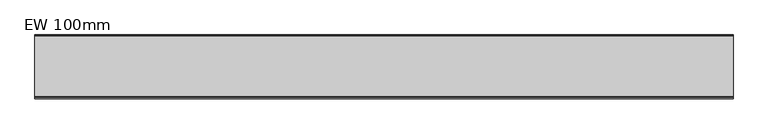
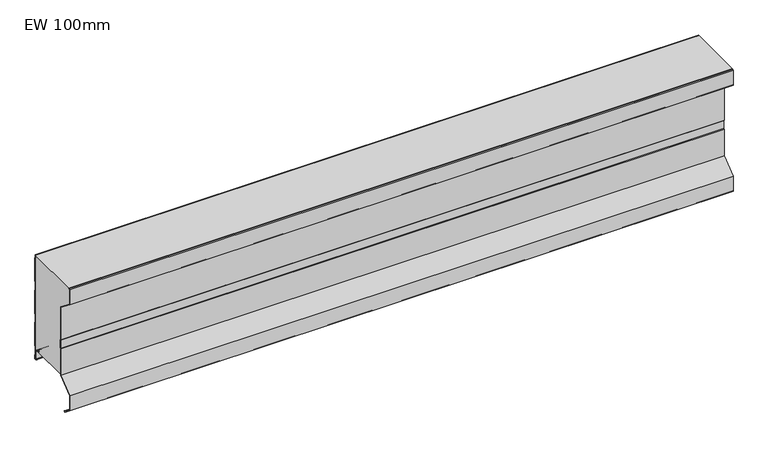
"""IFC4 building model written with IfcOpenShell, lengths in millimetres: plate geometry, KIP-MEX-KC-R19-CP-EW-SL : EW 100mm."""

from ifc_helpers import new_model, si_unit, point, frame, frame_2d, origin, place, context, project, spatial, polyline, circle_curve, trimmed, segment, composite_curve, outline, extrude, source, transform, mapped, element, save


def ew_100mm_a70b9e7b(model_context):
    return source(origin(), model_context, "Body", "SweptSolid", [
        extrude(outline(composite_curve([segment(polyline([(-2.2002307, 217.6192114), (-2.2002307, 224.3718713), (-1.2002307, 224.3718713), (-1.2002307, 217.9920919), (-0.3417885, 217.0010442)]), True, "CONTINUOUS"), segment(trimmed(circle_curve(frame_2d((-1.3999972, 216.0844273)), 1.3999972), [point((-0.3417885, 217.0010442))], [point((0.0, 216.0844273))], False, "CARTESIAN"), True, "CONTINUOUS"), segment(polyline([(0.0, 216.0844273), (0.0, 162.3293142)]), True, "CONTINUOUS"), segment(trimmed(circle_curve(frame_2d((-1.3999972, 162.3293142)), 1.3999972), [point((0.0, 162.3293142))], [point((-0.3417885, 161.4126973))], False, "CARTESIAN"), True, "CONTINUOUS"), segment(polyline([(-0.3417885, 161.4126973), (-1.2002307, 160.4216497), (-1.2002307, 141.7922443), (-0.3417885, 140.8011966)]), True, "CONTINUOUS"), segment(trimmed(circle_curve(frame_2d((-1.3999972, 139.8845797)), 1.3999972), [point((-0.3417885, 140.8011966))], [point((0.0, 139.8845797))], False, "CARTESIAN"), True, "CONTINUOUS"), segment(polyline([(0.0, 139.8845797), (0.0, 86.1294666)]), True, "CONTINUOUS"), segment(trimmed(circle_curve(frame_2d((-1.3999972, 86.1294666)), 1.3999972), [point((0.0, 86.1294666))], [point((-0.3417885, 85.2128497))], False, "CARTESIAN"), True, "CONTINUOUS"), segment(polyline([(-0.3417885, 85.2128497), (-1.2002307, 84.2218021), (-1.2002307, 65.5923967), (-0.3417885, 64.601349)]), True, "CONTINUOUS"), segment(trimmed(circle_curve(frame_2d((-1.3999972, 63.6847321)), 1.3999972), [point((-0.3417885, 64.601349))], [point((0.0, 63.6847321))], False, "CARTESIAN"), True, "CONTINUOUS"), segment(polyline([(0.0, 63.6847321), (0.0, 9.929619)]), True, "CONTINUOUS"), segment(trimmed(circle_curve(frame_2d((-1.3999972, 9.929619)), 1.3999972), [point((0.0, 9.929619))], [point((-0.3417885, 9.0130021))], False, "CARTESIAN"), True, "CONTINUOUS"), segment(polyline([(-0.3417885, 9.0130021), (-1.2002307, 8.0219545), (-1.2002307, -10.6074509), (-0.3417885, -11.5984986)]), True, "CONTINUOUS"), segment(trimmed(circle_curve(frame_2d((-1.3999972, -12.5151155)), 1.3999972), [point((-0.3417885, -11.5984986))], [point((0.0, -12.5151155))], False, "CARTESIAN"), True, "CONTINUOUS"), segment(polyline([(0.0, -12.5151155), (0.0, -20.3675812)]), True, "CONTINUOUS"), segment(trimmed(circle_curve(frame_2d((-1.4999795, -20.3675812)), 1.4999795), [point((0.0, -20.3675812))], [point((-1.4999795, -21.8675607))], False, "CARTESIAN"), True, "CONTINUOUS"), segment(polyline([(-1.4999795, -21.8675607), (-2.4999032, -21.8675607)]), True, "CONTINUOUS"), segment(trimmed(circle_curve(frame_2d((-2.4999032, -18.3676454)), 3.4999153), [point((-2.4999032, -21.8675607))], [point((-5.9998185, -18.3676454))], False, "CARTESIAN"), True, "CONTINUOUS"), segment(polyline([(-5.9998185, -18.3676454), (-5.9998185, -0.3670479)]), True, "CONTINUOUS"), segment(trimmed(circle_curve(frame_2d((-8.0001747, -0.3670479)), 2.0003562), [point((-5.9998185, -0.3670479))], [point((-7.9986755, 1.6333077))], True, "CARTESIAN"), True, "CONTINUOUS"), segment(polyline([(-7.9986755, 1.6333077), (-11.5958583, 1.6333077)]), True, "CONTINUOUS"), segment(trimmed(circle_curve(frame_2d((-11.5943838, 4.1340836)), 2.5007763), [point((-11.5958583, 1.6333077))], [point((-14.0574976, 3.7017037))], False, "CARTESIAN"), True, "CONTINUOUS"), segment(polyline([(-14.0574976, 3.7017037), (-14.6793261, 7.2440392), (-13.694386, 7.4169375), (-13.0725576, 3.8746027)]), True, "CONTINUOUS"), segment(trimmed(circle_curve(frame_2d((-11.5943841, 4.1340842)), 1.5007756), [point((-13.0725576, 3.8746027))], [point((-11.5943841, 2.6333086))], True, "CARTESIAN"), True, "CONTINUOUS"), segment(polyline([(-11.5943841, 2.6333086), (-7.9980709, 2.6333089)]), True, "CONTINUOUS"), segment(trimmed(circle_curve(frame_2d((-8.0001719, -0.3670493)), 3.0003589), [point((-7.9980709, 2.6333089))], [point((-4.999813, -0.3670493))], False, "CARTESIAN"), True, "CONTINUOUS"), segment(polyline([(-4.999813, -0.3670493), (-4.999813, -18.3676343)]), True, "CONTINUOUS"), segment(trimmed(circle_curve(frame_2d((-2.4999087, -18.3676343)), 2.4999043), [point((-4.999813, -18.3676343))], [point((-2.4999087, -20.8675386))], True, "CARTESIAN"), True, "CONTINUOUS"), segment(polyline([(-2.4999087, -20.8675386), (-0.9999889, -20.8675386), (-0.9999889, -12.3659771), (-2.2002307, -10.9803314), (-2.2002307, 8.3948349), (-1.0, 9.7804679), (-1.0, 63.8338833), (-2.2002307, 65.2195162), (-2.2002307, 84.5946825), (-1.0, 85.9803155), (-1.0, 140.0337309), (-2.2002307, 141.4193638), (-2.2002307, 160.7945301), (-1.0, 162.1801631), (-1.0, 216.2335785), (-2.2002307, 217.6192114)]), True, "CONTINUOUS")], self_intersect=False)), frame((-740.0, 0.0, 0.0), z_axis=(1.0, 0.0, 0.0), x_axis=(0.0, 1.0, 0.0)), (0.0, 0.0, 1.0), 1480.0),
        extrude(outline(composite_curve([segment(trimmed(circle_curve(frame_2d((-115.7875816, -75.4831487)), 1.5000016), [point((-115.338162, -74.0520558))], [point((-116.714315, -76.6626274))], False, "CARTESIAN"), True, "CONTINUOUS"), segment(polyline([(-116.714315, -76.6626274), (-135.000038, -62.2952701), (-135.000038, -27.2952321), (-100.0, 0.2047977), (-100.0, 62.4737665), (-98.9999989, 63.8880496), (-98.9999989, 82.4599218), (-100.0, 83.8742048), (-100.0, 160.2049713), (-135.000038, 187.7050012), (-135.000038, 222.7050392), (-132.8786153, 224.3718713), (-131.2600249, 224.3718713), (-134.000038, 222.2190039), (-134.000038, 188.1910365), (-99.0, 160.6910066), (-99.0, 84.1920296), (-97.9999989, 82.7777465), (-97.9999989, 63.5702249), (-99.0, 62.1559418), (-99.0, -0.2812376), (-134.000038, -27.7812674), (-134.000038, -61.8092349), (-119.3105941, -73.3509437), (-115.338162, -74.0520558)]), True, "CONTINUOUS")], self_intersect=False)), frame((-740.0, 0.0, 0.0), z_axis=(1.0, 0.0, 0.0), x_axis=(0.0, 1.0, 0.0)), (0.0, 0.0, 1.0), 1480.0),
        extrude(outline(composite_curve([segment(polyline([(-134.000038, 222.2190039), (-131.2600249, 224.3718713), (-2.2002307, 224.3718713), (-2.2002307, 217.6192115), (-1.0, 216.2335785), (-1.0, 162.1801631), (-2.2002307, 160.7945302), (-2.2002307, 141.4193639), (-1.0, 140.0337309), (-1.0, 85.9803155), (-2.2002307, 84.5946826), (-2.2002307, 65.2195163), (-1.0, 63.8338833), (-1.0, 9.7804679), (-2.2002307, 8.394835), (-2.2002307, -10.9803313), (-0.9999916, -12.365974), (-0.9999916, -20.8675386), (-2.4999198, -20.8675386)]), True, "CONTINUOUS"), segment(trimmed(circle_curve(frame_2d((-2.4999198, -18.3676343)), 2.4999043), [point((-2.4999198, -20.8675386))], [point((-4.9998241, -18.3676343))], False, "CARTESIAN"), True, "CONTINUOUS"), segment(polyline([(-4.9998241, -18.3676343), (-4.9998241, -0.3670493)]), True, "CONTINUOUS"), segment(trimmed(circle_curve(frame_2d((-8.0001829, -0.3670493)), 3.0003589), [point((-4.9998241, -0.3670493))], [point((-7.998082, 2.6333088))], True, "CARTESIAN"), True, "CONTINUOUS"), segment(polyline([(-7.998082, 2.6333088), (-11.5943952, 2.6333088)]), True, "CONTINUOUS"), segment(trimmed(circle_curve(frame_2d((-11.5943952, 4.1340843)), 1.5007755), [point((-11.5943952, 2.6333088))], [point((-13.0725686, 3.8746028))], False, "CARTESIAN"), True, "CONTINUOUS"), segment(polyline([(-13.0725686, 3.8746028), (-13.6943971, 7.4169376), (-14.6793372, 7.2440392), (-14.0575086, 3.7017037)]), True, "CONTINUOUS"), segment(trimmed(circle_curve(frame_2d((-11.5943948, 4.1340836)), 2.5007762), [point((-14.0575086, 3.7017037))], [point((-11.5958694, 1.6333077))], True, "CARTESIAN"), True, "CONTINUOUS"), segment(polyline([(-11.5958694, 1.6333077), (-99.0, 1.6333077), (-99.0, 62.1559418), (-97.9999989, 63.5702249), (-97.9999989, 82.7777465), (-99.0, 84.1920296), (-99.0, 160.6910066), (-134.000038, 188.1910365), (-134.000038, 222.2190039)]), True, "CONTINUOUS")], self_intersect=False)), frame((-740.0, 0.0, 0.0), z_axis=(1.0, 0.0, 0.0), x_axis=(0.0, 1.0, 0.0)), (0.0, 0.0, 1.0), 1480.0),
    ])


if __name__ == "__main__":
    model = new_model("IFC4")
    model_context = context("Model", 3, world=origin())
    ifc_project = project(units=[si_unit("LENGTHUNIT", "METRE", prefix="MILLI")], contexts=[model_context])
    site = spatial("IfcSite", under=ifc_project)
    building = spatial("IfcBuilding", under=site)
    placement = place(None, origin())
    ew_100mm_shape = ew_100mm_a70b9e7b(model_context)
    element("IfcPlate", 1, ObjectType="KIP-MEX-KC-R19-CP-EW-SL : EW 100mm", at=placement, inside=building, context=model_context, shape_type="MappedRepresentation", body=[
        mapped(ew_100mm_shape, transform((0.0, 0.0, 0.0), x_axis=(1.0, 0.0, 0.0), y_axis=(0.0, 1.0, 0.0), z_axis=(0.0, 0.0, 1.0))),
    ])
    save(model, "model.ifc")
